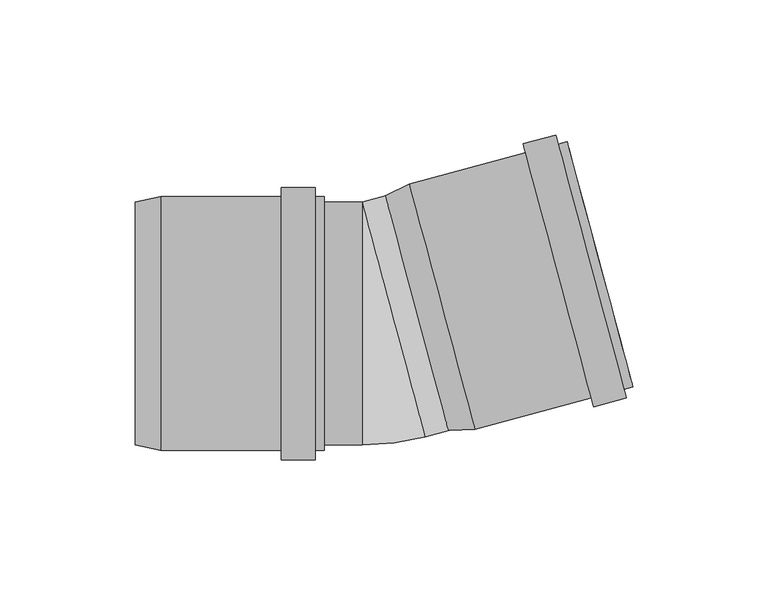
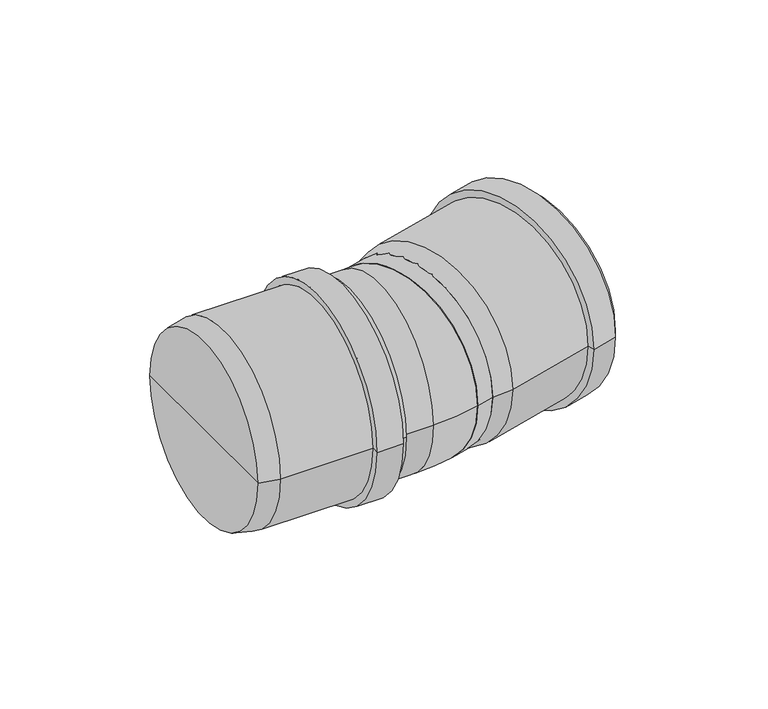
"""IFC4 building model written with IfcOpenShell, lengths in millimetres: pipe fitting geometry, pf_HTB : pf_HTB."""

import ifcopenshell
import ifcopenshell.guid

model = None  # the IFC model being written
_history = None  # IfcOwnerHistory: only IFC2X3 demands one
_inside = {}  # id of a spatial element -> (the spatial element, [elements in it])
_under = {}  # id of a project, library or spatial element -> (it, [spatial elements below it])
_declared = {}  # id of a project -> (the project, [libraries it declares])
_typed = {}  # id of a type object -> (the type object, [elements of that type])
_made_of = {}  # id of a material, layer set ... -> (it, [elements and type objects made of it])


def new_model(schema):
    """Start an empty IFC model of exactly this schema.

    Asked for "IFC4X3", IfcOpenShell would pick the latest addendum, in which some entities
    have other attributes; the version numbers below select the first issue.
    IFC2X3 requires an IfcOwnerHistory on every rooted entity: one is made here for all.
    """
    global model, _history
    if schema == "IFC4X3":
        model = ifcopenshell.file(schema_version=(4, 3, 0, 0))
    else:
        model = ifcopenshell.file(schema=schema)
    _inside.clear()
    _under.clear()
    _declared.clear()
    _typed.clear()
    _made_of.clear()
    _history = None
    if model.schema == "IFC2X3":
        org = make("IfcOrganization", Name="unknown")
        user = make(
            "IfcPersonAndOrganization",
            ThePerson=make("IfcPerson", FamilyName="unknown"),
            TheOrganization=org,
        )
        app = make(
            "IfcApplication",
            ApplicationDeveloper=org,
            Version="unknown",
            ApplicationFullName="unknown",
            ApplicationIdentifier="unknown",
        )
        _history = make(
            "IfcOwnerHistory",
            OwningUser=user,
            OwningApplication=app,
            ChangeAction="ADDED",
            CreationDate=0,
        )
    return model


def make(cls, **values):
    """One entity of the class cls with the attributes given. An attribute that is None is left unset."""
    return model.create_entity(
        cls, **{name: value for name, value in values.items() if value is not None}
    )


def rooted(cls, **values):
    """An entity with a GlobalId (a new one), such as an element, a storey or a relation."""
    return make(cls, GlobalId=ifcopenshell.guid.new(), OwnerHistory=_history, **values)


def si_unit(unit_type, name, prefix=None):
    """IfcSIUnit, for example si_unit("LENGTHUNIT", "METRE", prefix="MILLI")."""
    return make("IfcSIUnit", UnitType=unit_type, Prefix=prefix, Name=name)


def assignment(units):
    """IfcUnitAssignment: the units of a project."""
    return None if units is None else make("IfcUnitAssignment", Units=units)


def point(xyz):
    """IfcCartesianPoint."""
    return None if xyz is None else make("IfcCartesianPoint", Coordinates=xyz)


def direction(xyz):
    """IfcDirection."""
    return None if xyz is None else make("IfcDirection", DirectionRatios=xyz)


def frame(location, z_axis=None, x_axis=None):
    """IfcAxis2Placement3D, a coordinate frame: its origin and axes. An axis left out is left unset."""
    return make(
        "IfcAxis2Placement3D",
        Location=point(location),
        Axis=direction(z_axis),
        RefDirection=direction(x_axis),
    )


def frame_2d(location, x_axis=None):
    """IfcAxis2Placement2D, a coordinate frame in the plane: its origin and x axis."""
    return make(
        "IfcAxis2Placement2D", Location=point(location), RefDirection=direction(x_axis)
    )


def origin():
    """The frame at (0, 0, 0) with its axes left unset."""
    return frame((0.0, 0.0, 0.0))


def origin_2d():
    """The frame at (0, 0) in the plane with its x axis left unset."""
    return frame_2d((0.0, 0.0))


def place(relative_to, where):
    """IfcLocalPlacement: puts the frame where relative to a parent placement (None: the world)."""
    return make(
        "IfcLocalPlacement", PlacementRelTo=relative_to, RelativePlacement=where
    )


def context(
    kind, dimensions, precision=None, world=None, true_north=None, identifier=None
):
    """IfcGeometricRepresentationContext, for example the 3D "Model" context."""
    return make(
        "IfcGeometricRepresentationContext",
        ContextIdentifier=identifier,
        ContextType=kind,
        CoordinateSpaceDimension=dimensions,
        Precision=precision,
        WorldCoordinateSystem=world,
        TrueNorth=true_north,
    )


def project(units=None, contexts=None):
    """IfcProject with its units and contexts."""
    return rooted(
        "IfcProject",
        Name="project",
        RepresentationContexts=contexts,
        UnitsInContext=assignment(units),
    )


def spatial(cls, under=None, at=None, **own):
    """A site, building, storey or space (cls), placed at a placement, below another one or the project."""
    s = rooted(cls, ObjectPlacement=at, **own)
    if under is not None:
        _under.setdefault(under.id(), (under, []))[1].append(s)
    return s


def polyline(points):
    """IfcPolyline through the points."""
    return make("IfcPolyline", Points=[point(p) for p in points])


def circle_curve(where, radius):
    """IfcCircle in the frame where."""
    return make("IfcCircle", Position=where, Radius=radius)


def ellipse_curve(where, semi_axis1, semi_axis2):
    """IfcEllipse in the frame where."""
    return make(
        "IfcEllipse", Position=where, SemiAxis1=semi_axis1, SemiAxis2=semi_axis2
    )


def trimmed(basis, trim1, trim2, sense, master):
    """IfcTrimmedCurve: the piece of a basis curve between two trims."""
    return make(
        "IfcTrimmedCurve",
        BasisCurve=basis,
        Trim1=trim1,
        Trim2=trim2,
        SenseAgreement=sense,
        MasterRepresentation=master,
    )


def segment(curve, same_sense, transition):
    """IfcCompositeCurveSegment."""
    return make(
        "IfcCompositeCurveSegment",
        Transition=transition,
        SameSense=same_sense,
        ParentCurve=curve,
    )


def composite_curve(segments, self_intersect=None):
    """IfcCompositeCurve: segments joined end to end."""
    return make("IfcCompositeCurve", Segments=segments, SelfIntersect=self_intersect)


def outline(outer, holes=None, kind="AREA"):
    """IfcArbitraryClosedProfileDef: a profile drawn as a closed curve; with holes, ...WithVoids."""
    if holes is None:
        return make("IfcArbitraryClosedProfileDef", ProfileType=kind, OuterCurve=outer)
    return make(
        "IfcArbitraryProfileDefWithVoids",
        ProfileType=kind,
        OuterCurve=outer,
        InnerCurves=holes,
    )


def extrude(swept, where, along, depth):
    """IfcExtrudedAreaSolid: the profile swept, set in the frame where, extruded along a direction by depth."""
    return make(
        "IfcExtrudedAreaSolid",
        SweptArea=swept,
        Position=where,
        ExtrudedDirection=direction(along),
        Depth=depth,
    )


def shape(context_of_items, identifier, shape_type, items):
    """IfcShapeRepresentation: the items that make up one representation, for example the "Body"."""
    return make(
        "IfcShapeRepresentation",
        ContextOfItems=context_of_items,
        RepresentationIdentifier=identifier,
        RepresentationType=shape_type,
        Items=items,
    )


def source(mapping_origin, context_of_items, identifier, shape_type, items):
    """IfcRepresentationMap: a shape defined once, which mapped items show again and again."""
    return make(
        "IfcRepresentationMap",
        MappingOrigin=mapping_origin,
        MappedRepresentation=shape(context_of_items, identifier, shape_type, items),
    )


def transform(
    local_origin,
    x_axis=None,
    y_axis=None,
    z_axis=None,
    scale=None,
    scale2=None,
    scale3=None,
    uniform=True,
):
    """IfcCartesianTransformationOperator3D, or its non-uniform kind. x_axis, y_axis, z_axis: its Axis1, 2, 3."""
    if uniform:
        return make(
            "IfcCartesianTransformationOperator3D",
            Axis1=direction(x_axis),
            Axis2=direction(y_axis),
            LocalOrigin=point(local_origin),
            Scale=scale,
            Axis3=direction(z_axis),
        )
    return make(
        "IfcCartesianTransformationOperator3DnonUniform",
        Axis1=direction(x_axis),
        Axis2=direction(y_axis),
        LocalOrigin=point(local_origin),
        Scale=scale,
        Axis3=direction(z_axis),
        Scale2=scale2,
        Scale3=scale3,
    )


def mapped(mapping_source, mapping_target):
    """IfcMappedItem: shows the shape of a source again, moved by a transform."""
    return make(
        "IfcMappedItem", MappingSource=mapping_source, MappingTarget=mapping_target
    )


def made_of(thing, what):
    """Note that an element or type object is made of a material, layer set ...; save() writes the relation."""
    if what is not None:
        _made_of.setdefault(what.id(), (what, []))[1].append(thing)
    return thing


def element(
    cls,
    number,
    at=None,
    inside=None,
    cuts=None,
    type_object=None,
    material=None,
    context=None,
    identifier="Body",
    shape_type=None,
    held_by="IfcProductDefinitionShape",
    body=None,
    shapes=None,
    **own,
):
    """One element of the class cls, such as IfcWall. Its Tag is "e" and its number.

    at: its placement. inside: the storey or other place that contains it. cuts: it is an
    opening in that element (IfcRelVoidsElement). A single representation is given by context,
    identifier, shape_type and body (its items); several are given by shapes. held_by: the class
    of the entity that holds the representations. save() writes the other relations.
    """
    e = rooted(cls, Tag="e%d" % number, ObjectPlacement=at, **own)
    if body is not None:
        shapes = [shape(context, identifier, shape_type, body)]
    if shapes is not None:
        e.Representation = make(held_by, Representations=shapes)
    if inside is not None:
        _inside.setdefault(inside.id(), (inside, []))[1].append(e)
    if cuts is not None:
        rooted(
            "IfcRelVoidsElement", RelatingBuildingElement=cuts, RelatedOpeningElement=e
        )
    if type_object is not None:
        _typed.setdefault(type_object.id(), (type_object, []))[1].append(e)
    return made_of(e, material)


def aggregate(whole, parts):
    """IfcRelAggregates: a whole, such as a stair, and the parts it consists of."""
    return rooted("IfcRelAggregates", RelatingObject=whole, RelatedObjects=parts)


def save(model, path):
    """Write the relations noted so far, then the file.

    IfcRelAggregates (storeys below a building ...), IfcRelContainedInSpatialStructure (elements
    in a storey), IfcRelDefinesByType, IfcRelAssociatesMaterial and IfcRelDeclares: one each for
    every whole, place, type object, material and project.
    """
    for whole, parts in _under.values():
        aggregate(whole, parts)
    for where, things in _inside.values():
        rooted(
            "IfcRelContainedInSpatialStructure",
            RelatedElements=things,
            RelatingStructure=where,
        )
    for kind, things in _typed.values():
        rooted("IfcRelDefinesByType", RelatedObjects=things, RelatingType=kind)
    for what, things in _made_of.values():
        rooted("IfcRelAssociatesMaterial", RelatedObjects=things, RelatingMaterial=what)
    for by, libraries in _declared.values():
        rooted("IfcRelDeclares", RelatingContext=by, RelatedDefinitions=libraries)
    model.write(path)


def plane_surface(at):
    """IfcPlane: the flat surface through the origin of the frame at, square to its z axis."""
    return make("IfcPlane", Position=at)


def cylinder_surface(at, radius):
    """IfcCylindricalSurface: all points at the distance radius from the z axis of the frame at."""
    return make("IfcCylindricalSurface", Position=at, Radius=radius)


def revolved_surface(curve, axis_point, axis_direction):
    """IfcSurfaceOfRevolution: the curve turned about the line through axis_point along axis_direction."""
    return make(
        "IfcSurfaceOfRevolution",
        SweptCurve=make("IfcArbitraryOpenProfileDef", ProfileType="CURVE", Curve=curve),
        AxisPosition=make("IfcAxis1Placement", Location=point(axis_point), Axis=direction(axis_direction)),
    )


def advanced_brep(points, edges, surfaces, faces):
    """IfcAdvancedBrep: a solid bounded by faces that lie on surfaces and meet in shared edges.

    An edge is (start, end): straight between two places in points (the first is 0);
    or (start, end, curve); or (start, end, curve, False) where it runs against its curve.
    A face is (place in surfaces, loops), or (place, loops, False) where it looks against
    its surface's normal. A loop lists edges by number (the first is 1), with a minus sign
    where the edge is run from its end to its start. The first loop is the outer one.
    """
    corners = [point(p) for p in points]
    vertices = [make("IfcVertexPoint", VertexGeometry=c) for c in corners]
    made = []
    for start, end, *more in edges:
        made.append(
            make(
                "IfcEdgeCurve",
                EdgeStart=vertices[start],
                EdgeEnd=vertices[end],
                EdgeGeometry=more[0] if more else make("IfcPolyline", Points=[corners[start], corners[end]]),
                SameSense=more[1] if len(more) > 1 else True,
            )
        )
    hull = []
    for where, loops, *sense in faces:
        bounds = []
        for j, loop in enumerate(loops):
            ring = [make("IfcOrientedEdge", EdgeElement=made[abs(k) - 1], Orientation=k > 0) for k in loop]
            bounds.append(
                make(
                    "IfcFaceOuterBound" if j == 0 else "IfcFaceBound",
                    Bound=make("IfcEdgeLoop", EdgeList=ring),
                    Orientation=True,
                )
            )
        hull.append(make("IfcAdvancedFace", Bounds=bounds, FaceSurface=surfaces[where], SameSense=sense[0] if sense else True))
    return make("IfcAdvancedBrep", Outer=make("IfcClosedShell", CfsFaces=hull))


def pipe_fitting_fdcfc480(model_context):
    return source(origin(), model_context, "Body", "SolidModel", [
        advanced_brep(
        [(25.9425593, -39.6361403, 0.0), (2.6488452, 47.2971841, 0.0), (11.3075025, 51.6878166, 0.0), (35.6364927, -39.109211, 0.0), (14.2957022, 3.8305219, 0.0), (94.0750052, -23.4506588, 0.0), (69.7460149, 67.3463689, 0.0), (70.263653, 65.4145172, 0.0), (93.5573671, -21.5188072, 0.0), (90.7908574, -24.3306436, 0.0), (66.4618671, 66.4663841, 0.0), (91.6708421, -27.6147914, 0.0), (65.5818824, 69.7505319, 0.0), (79.5967693, -30.8500294, 0.0), (53.5078096, 66.5152939, 0.0), (78.7167846, -27.5658816, 0.0), (54.3877943, 63.231146, 0.0), (35.1188546, -37.1773594, 0.0), (11.8251405, 49.755965, 0.0), (23.4719976, 6.2893028, 0.0)],
        [
            (0, 1, circle_curve(frame((14.2957022, 3.8305219, 0.0), z_axis=(0.9659258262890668, 0.2588190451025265, 0.0), x_axis=(-0.2588190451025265, 0.9659258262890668, 0.0)), 45.0)),
            (1, 2),
            (2, 3, circle_curve(frame((23.4719976, 6.2893028, 0.0), z_axis=(-0.9659258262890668, -0.2588190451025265, 0.0), x_axis=(-0.2588190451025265, 0.9659258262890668, 0.0)), 47.0)),
            (3, 0),
            (1, 0, circle_curve(frame((14.2957022, 3.8305219, 0.0), z_axis=(0.9659258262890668, 0.2588190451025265, 0.0), x_axis=(-0.2588190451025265, 0.9659258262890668, 0.0)), 45.0)),
            (3, 2, circle_curve(frame((23.4719976, 6.2893028, 0.0), z_axis=(-0.9659258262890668, -0.2588190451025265, 0.0), x_axis=(-0.2588190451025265, 0.9659258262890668, 0.0)), 47.0)),
            (4, 1),
            (0, 4),
            (5, 6, circle_curve(frame((81.9105101, 21.947855, 0.0), z_axis=(0.9659258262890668, 0.2588190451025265, 0.0), x_axis=(-0.2588190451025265, 0.9659258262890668, 0.0)), 47.0)),
            (6, 7),
            (7, 8, circle_curve(frame((81.9105101, 21.947855, 0.0), z_axis=(-0.9659258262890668, -0.2588190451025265, 0.0), x_axis=(-0.2588190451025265, 0.9659258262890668, 0.0)), 45.0)),
            (8, 5),
            (6, 5, circle_curve(frame((81.9105101, 21.947855, 0.0), z_axis=(0.9659258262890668, 0.2588190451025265, 0.0), x_axis=(-0.2588190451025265, 0.9659258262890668, 0.0)), 47.0)),
            (8, 7, circle_curve(frame((81.9105101, 21.947855, 0.0), z_axis=(-0.9659258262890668, -0.2588190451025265, 0.0), x_axis=(-0.2588190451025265, 0.9659258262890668, 0.0)), 45.0)),
            (9, 10, circle_curve(frame((78.6263623, 21.0678703, 0.0), z_axis=(0.9659258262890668, 0.2588190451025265, 0.0), x_axis=(-0.2588190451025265, 0.9659258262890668, 0.0)), 47.0)),
            (10, 6),
            (5, 9),
            (10, 9, circle_curve(frame((78.6263623, 21.0678703, 0.0), z_axis=(0.9659258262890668, 0.2588190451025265, 0.0), x_axis=(-0.2588190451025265, 0.9659258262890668, 0.0)), 47.0)),
            (11, 12, circle_curve(frame((78.6263623, 21.0678703, 0.0), z_axis=(0.9659258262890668, 0.2588190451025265, 0.0), x_axis=(-0.2588190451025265, 0.9659258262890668, 0.0)), 50.4)),
            (12, 10),
            (9, 11),
            (12, 11, circle_curve(frame((78.6263623, 21.0678703, 0.0), z_axis=(0.9659258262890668, 0.2588190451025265, 0.0), x_axis=(-0.2588190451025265, 0.9659258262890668, 0.0)), 50.4)),
            (13, 14, circle_curve(frame((66.5522894, 17.8326322, 0.0), z_axis=(0.9659258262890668, 0.2588190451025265, 0.0), x_axis=(-0.2588190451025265, 0.9659258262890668, 0.0)), 50.4)),
            (14, 12),
            (11, 13),
            (14, 13, circle_curve(frame((66.5522894, 17.8326322, 0.0), z_axis=(0.9659258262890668, 0.2588190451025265, 0.0), x_axis=(-0.2588190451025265, 0.9659258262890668, 0.0)), 50.4)),
            (15, 16, circle_curve(frame((66.5522894, 17.8326322, 0.0), z_axis=(0.9659258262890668, 0.2588190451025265, 0.0), x_axis=(-0.2588190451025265, 0.9659258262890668, 0.0)), 47.0)),
            (16, 14),
            (13, 15),
            (16, 15, circle_curve(frame((66.5522894, 17.8326322, 0.0), z_axis=(0.9659258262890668, 0.2588190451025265, 0.0), x_axis=(-0.2588190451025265, 0.9659258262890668, 0.0)), 47.0)),
            (2, 16),
            (15, 3),
            (17, 18, circle_curve(frame((23.4719976, 6.2893028, 0.0), z_axis=(0.9659258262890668, 0.2588190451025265, 0.0), x_axis=(-0.2588190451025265, 0.9659258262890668, 0.0)), 45.0)),
            (18, 19),
            (19, 17),
            (18, 17, circle_curve(frame((23.4719976, 6.2893028, 0.0), z_axis=(0.9659258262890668, 0.2588190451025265, 0.0), x_axis=(-0.2588190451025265, 0.9659258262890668, 0.0)), 45.0)),
            (7, 18),
            (17, 8),
        ],
        [
            revolved_surface(polyline([(11.3075025, 51.6878166, 0.0), (2.6488452, 47.2971841, 0.0)]), (14.2957022, 3.8305219, 0.0), (-0.9659258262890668, -0.2588190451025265, 0.0)),
            plane_surface(frame((14.2957022, 3.8305219, 0.0), z_axis=(-0.9659258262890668, -0.2588190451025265, 0.0), x_axis=(-0.2588190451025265, 0.9659258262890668, 0.0))),
            plane_surface(frame((81.9105101, 21.947855, 0.0), z_axis=(0.9659258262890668, 0.2588190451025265, 0.0), x_axis=(-0.2588190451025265, 0.9659258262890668, 0.0))),
            cylinder_surface(frame((14.2957022, 3.8305219, 0.0), z_axis=(-0.9659258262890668, -0.2588190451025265, 0.0), x_axis=(-0.2588190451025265, 0.9659258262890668, 0.0)), 47.0),
            plane_surface(frame((78.6263623, 21.0678703, 0.0), z_axis=(0.9659258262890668, 0.2588190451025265, 0.0), x_axis=(-0.2588190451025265, 0.9659258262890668, 0.0))),
            cylinder_surface(frame((14.2957022, 3.8305219, 0.0), z_axis=(-0.9659258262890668, -0.2588190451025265, 0.0), x_axis=(-0.2588190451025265, 0.9659258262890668, 0.0)), 50.4),
            plane_surface(frame((66.5522894, 17.8326322, 0.0), z_axis=(-0.9659258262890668, -0.2588190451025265, 0.0), x_axis=(-0.2588190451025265, 0.9659258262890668, 0.0))),
            plane_surface(frame((23.4719976, 6.2893028, 0.0), z_axis=(0.9659258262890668, 0.2588190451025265, 0.0), x_axis=(-0.2588190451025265, 0.9659258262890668, 0.0))),
            revolved_surface(polyline([(11.825140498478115, 49.75596500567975, 0.0), (70.26365305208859, 65.41451725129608, 0.0)]), (14.2957022, 3.8305219, 0.0), (-0.9659258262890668, -0.2588190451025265, 0.0)),
        ],
        [
            (0, [[1, 2, 3, 4]]),
            (0, [[5, -4, 6, -2]]),
            (1, [[7, -1, 8]]),
            (1, [[-8, -5, -7]]),
            (2, [[9, 10, 11, 12]]),
            (2, [[13, -12, 14, -10]]),
            (3, [[15, 16, -9, 17]]),
            (3, [[18, -17, -13, -16]]),
            (4, [[19, 20, -15, 21]]),
            (4, [[22, -21, -18, -20]]),
            (5, [[23, 24, -19, 25]]),
            (5, [[26, -25, -22, -24]]),
            (6, [[27, 28, -23, 29]]),
            (6, [[30, -29, -26, -28]]),
            (3, [[-3, 31, -27, 32]]),
            (3, [[-6, -32, -30, -31]]),
            (7, [[33, 34, 35]]),
            (7, [[36, -35, -34]]),
            (8, [[-11, 37, -33, 38]]),
            (8, [[-14, -38, -36, -37]]),
        ],
    ),
        advanced_brep(
        [(-90.0, -45.0, 0.0), (-90.0, 45.0, 0.0), (-80.5, 47.0, 0.0), (-80.5, -47.0, 0.0), (-90.0, 0.0, 0.0), (-20.0, -47.0, 0.0), (-20.0, 47.0, 0.0), (-20.0, 45.0, 0.0), (-20.0, -45.0, 0.0), (-23.4, -47.0, 0.0), (-23.4, 47.0, 0.0), (-23.4, -50.4, 0.0), (-23.4, 50.4, 0.0), (-35.9, -50.4, 0.0), (-35.9, 50.4, 0.0), (-35.9, -47.0, 0.0), (-35.9, 47.0, 0.0), (-80.5, -45.0, 0.0), (-80.5, 45.0, 0.0), (-80.5, 0.0, 0.0)],
        [
            (0, 1, circle_curve(frame((-90.0, 0.0, 0.0), z_axis=(1.0, 0.0, 0.0), x_axis=(0.0, 1.0, 0.0)), 45.0)),
            (1, 2),
            (2, 3, circle_curve(frame((-80.5, 0.0, 0.0), z_axis=(-1.0, 0.0, 0.0), x_axis=(0.0, 1.0, 0.0)), 47.0)),
            (3, 0),
            (1, 0, circle_curve(frame((-90.0, 0.0, 0.0), z_axis=(1.0, 0.0, 0.0), x_axis=(0.0, 1.0, 0.0)), 45.0)),
            (3, 2, circle_curve(frame((-80.5, 0.0, 0.0), z_axis=(-1.0, 0.0, 0.0), x_axis=(0.0, 1.0, 0.0)), 47.0)),
            (4, 1),
            (0, 4),
            (5, 6, circle_curve(frame((-20.0, 0.0, 0.0), z_axis=(1.0, 0.0, 0.0), x_axis=(0.0, 1.0, 0.0)), 47.0)),
            (6, 7),
            (7, 8, circle_curve(frame((-20.0, 0.0, 0.0), z_axis=(-1.0, 0.0, 0.0), x_axis=(0.0, 1.0, 0.0)), 45.0)),
            (8, 5),
            (6, 5, circle_curve(frame((-20.0, 0.0, 0.0), z_axis=(1.0, 0.0, 0.0), x_axis=(0.0, 1.0, 0.0)), 47.0)),
            (8, 7, circle_curve(frame((-20.0, 0.0, 0.0), z_axis=(-1.0, 0.0, 0.0), x_axis=(0.0, 1.0, 0.0)), 45.0)),
            (9, 10, circle_curve(frame((-23.4, 0.0, 0.0), z_axis=(1.0, 0.0, 0.0), x_axis=(0.0, 1.0, 0.0)), 47.0)),
            (10, 6),
            (5, 9),
            (10, 9, circle_curve(frame((-23.4, 0.0, 0.0), z_axis=(1.0, 0.0, 0.0), x_axis=(0.0, 1.0, 0.0)), 47.0)),
            (11, 12, circle_curve(frame((-23.4, 0.0, 0.0), z_axis=(1.0, 0.0, 0.0), x_axis=(0.0, 1.0, 0.0)), 50.4)),
            (12, 10),
            (9, 11),
            (12, 11, circle_curve(frame((-23.4, 0.0, 0.0), z_axis=(1.0, 0.0, 0.0), x_axis=(0.0, 1.0, 0.0)), 50.4)),
            (13, 14, circle_curve(frame((-35.9, 0.0, 0.0), z_axis=(1.0, 0.0, 0.0), x_axis=(0.0, 1.0, 0.0)), 50.4)),
            (14, 12),
            (11, 13),
            (14, 13, circle_curve(frame((-35.9, 0.0, 0.0), z_axis=(1.0, 0.0, 0.0), x_axis=(0.0, 1.0, 0.0)), 50.4)),
            (15, 16, circle_curve(frame((-35.9, 0.0, 0.0), z_axis=(1.0, 0.0, 0.0), x_axis=(0.0, 1.0, 0.0)), 47.0)),
            (16, 14),
            (13, 15),
            (16, 15, circle_curve(frame((-35.9, 0.0, 0.0), z_axis=(1.0, 0.0, 0.0), x_axis=(0.0, 1.0, 0.0)), 47.0)),
            (2, 16),
            (15, 3),
            (17, 18, circle_curve(frame((-80.5, 0.0, 0.0), z_axis=(1.0, 0.0, 0.0), x_axis=(0.0, 1.0, 0.0)), 45.0)),
            (18, 19),
            (19, 17),
            (18, 17, circle_curve(frame((-80.5, 0.0, 0.0), z_axis=(1.0, 0.0, 0.0), x_axis=(0.0, 1.0, 0.0)), 45.0)),
            (7, 18),
            (17, 8),
        ],
        [
            revolved_surface(polyline([(-80.5, 47.0, 0.0), (-90.0, 45.0, 0.0)]), (-90.0, 0.0, 0.0), (-1.0, 0.0, 0.0)),
            plane_surface(frame((-90.0, 0.0, 0.0), z_axis=(-1.0, 0.0, 0.0), x_axis=(0.0, 1.0, 0.0))),
            plane_surface(frame((-20.0, 0.0, 0.0), z_axis=(1.0, 0.0, 0.0), x_axis=(0.0, 1.0, 0.0))),
            cylinder_surface(frame((-90.0, 0.0, 0.0), z_axis=(-1.0, 0.0, 0.0), x_axis=(0.0, 1.0, 0.0)), 47.0),
            plane_surface(frame((-23.4, 0.0, 0.0), z_axis=(1.0, 0.0, 0.0), x_axis=(0.0, 1.0, 0.0))),
            cylinder_surface(frame((-90.0, 0.0, 0.0), z_axis=(-1.0, 0.0, 0.0), x_axis=(0.0, 1.0, 0.0)), 50.4),
            plane_surface(frame((-35.9, 0.0, 0.0), z_axis=(-1.0, 0.0, 0.0), x_axis=(0.0, 1.0, 0.0))),
            plane_surface(frame((-80.5, 0.0, 0.0), z_axis=(1.0, 0.0, 0.0), x_axis=(0.0, 1.0, 0.0))),
            revolved_surface(polyline([(-80.5, 45.0, 0.0), (-20.0, 45.0, 0.0)]), (-90.0, 0.0, 0.0), (-1.0, 0.0, 0.0)),
        ],
        [
            (0, [[1, 2, 3, 4]]),
            (0, [[5, -4, 6, -2]]),
            (1, [[7, -1, 8]]),
            (1, [[-8, -5, -7]]),
            (2, [[9, 10, 11, 12]]),
            (2, [[13, -12, 14, -10]]),
            (3, [[15, 16, -9, 17]]),
            (3, [[18, -17, -13, -16]]),
            (4, [[19, 20, -15, 21]]),
            (4, [[22, -21, -18, -20]]),
            (5, [[23, 24, -19, 25]]),
            (5, [[26, -25, -22, -24]]),
            (6, [[27, 28, -23, 29]]),
            (6, [[30, -29, -26, -28]]),
            (3, [[-3, 31, -27, 32]]),
            (3, [[-6, -32, -30, -31]]),
            (7, [[33, 34, 35]]),
            (7, [[36, -35, -34]]),
            (8, [[-11, 37, -33, 38]]),
            (8, [[-14, -38, -36, -37]]),
        ],
    ),
        extrude(outline(composite_curve([segment(trimmed(circle_curve(origin_2d(), 45.0), [point((0.0, -45.0))], [point((0.0, 45.0))], False, "CARTESIAN"), True, "CONTINUOUS"), segment(trimmed(circle_curve(origin_2d(), 45.0), [point((0.0, 45.0))], [point((0.0, -45.0))], False, "CARTESIAN"), True, "CONTINUOUS")], self_intersect=False)), frame((5.7224946, 1.5333378, 0.0), z_axis=(0.9659258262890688, 0.258819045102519, 0.0), x_axis=(0.0, 0.0, 1.0)), (0.0, 0.0, 1.0), 18.3756376),
        extrude(outline(composite_curve([segment(trimmed(circle_curve(origin_2d(), 45.0), [point((-45.0, 0.0))], [point((45.0, 0.0))], False, "CARTESIAN"), True, "CONTINUOUS"), segment(trimmed(circle_curve(origin_2d(), 45.0), [point((45.0, 0.0))], [point((-45.0, 0.0))], False, "CARTESIAN"), True, "CONTINUOUS")], self_intersect=False)), frame((-80.5, 0.0, 0.0), z_axis=(1.0, 0.0, 0.0), x_axis=(0.0, 1.0, 0.0)), (0.0, 0.0, 1.0), 74.5756376),
        advanced_brep(
        [(-5.9243624, -45.0, 0.0), (-5.9243624, 45.0, 0.0), (17.3693517, -41.9333244, 0.0)],
        [
            (0, 1, circle_curve(frame((-5.9243624, 0.0, 0.0), z_axis=(-1.0, 0.0, 0.0), x_axis=(0.0, 1.0, 0.0)), 45.0)),
            (1, 0, circle_curve(frame((-5.9243624, 0.0, 0.0), z_axis=(-1.0, 0.0, 0.0), x_axis=(0.0, 1.0, 0.0)), 45.0)),
            (2, 1, circle_curve(frame((5.7224946, 1.5333378, 0.0), z_axis=(0.9659258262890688, 0.25881904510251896, 0.0), x_axis=(-0.25881904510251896, 0.9659258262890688, 0.0)), 45.0)),
            (1, 2, circle_curve(frame((5.7224946, 1.5333378, 0.0), z_axis=(0.9659258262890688, 0.25881904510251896, 0.0), x_axis=(-0.25881904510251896, 0.9659258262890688, 0.0)), 45.0)),
            (2, 0, circle_curve(frame((-5.9243624, 45.0, 0.0), z_axis=(0.0, 0.0, -1.0), x_axis=(0.0, -1.0, 0.0)), 90.0)),
        ],
        [
            plane_surface(frame((-5.9243624, 45.0, -14.8), z_axis=(-1.0, 0.0, 0.0), x_axis=(0.0, -1.0, 0.0))),
            plane_surface(frame((-5.9243624, 45.0, -14.8), z_axis=(0.9659258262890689, 0.258819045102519, 0.0), x_axis=(0.258819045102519, -0.9659258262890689, 0.0))),
            revolved_surface(trimmed(ellipse_curve(frame((-5.9243624, 0.0, 0.0), z_axis=(1.0, 0.0, 0.0), x_axis=(0.0, 1.0, 0.0)), 45.0, 45.0), [point((-5.9243624, -45.0, 0.0))], [point((-5.9243624, 45.0, 0.0))], True, "CARTESIAN"), (-5.9243624, 45.0, -14.8), (0.0, 0.0, -1.0)),
            revolved_surface(trimmed(ellipse_curve(frame((-5.9243624, 0.0, 0.0), z_axis=(1.0, 0.0, 0.0), x_axis=(0.0, 1.0, 0.0)), 45.0, 45.0), [point((-5.9243624, 45.0, 0.0))], [point((-5.9243624, -45.0, 0.0))], True, "CARTESIAN"), (-5.9243624, 45.0, -14.8), (0.0, 0.0, -1.0)),
        ],
        [
            (0, [[1, 2]]),
            (1, [[3, 4]]),
            (2, [[5, -2, -3]]),
            (3, [[-1, -5, -4]]),
        ],
    ),
    ])


if __name__ == "__main__":
    model = new_model("IFC4")
    model_context = context("Model", 3, world=origin())
    ifc_project = project(units=[si_unit("LENGTHUNIT", "METRE", prefix="MILLI")], contexts=[model_context])
    site = spatial("IfcSite", under=ifc_project)
    building = spatial("IfcBuilding", under=site)
    placement = place(None, origin())
    pipe_fitting_shape = pipe_fitting_fdcfc480(model_context)
    element("IfcPipeFitting", 1, ObjectType="pf_HTB : pf_HTB", at=placement, inside=building, context=model_context, shape_type="MappedRepresentation", body=[
        mapped(pipe_fitting_shape, transform((0.0, 0.0, 0.0), x_axis=(1.0, 0.0, 0.0), y_axis=(0.0, 1.0, 0.0), z_axis=(0.0, 0.0, 1.0))),
    ])
    save(model, "model.ifc")
